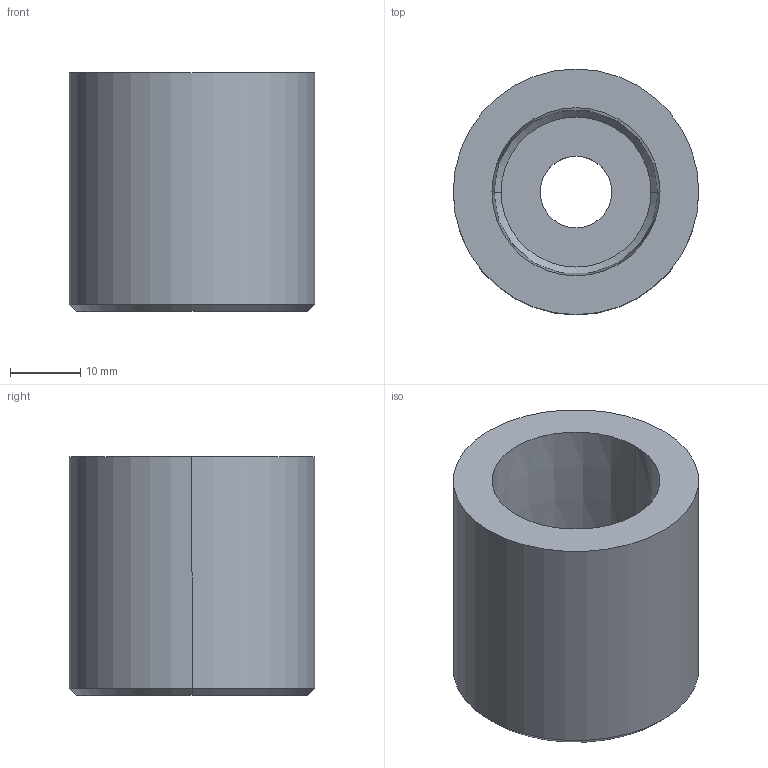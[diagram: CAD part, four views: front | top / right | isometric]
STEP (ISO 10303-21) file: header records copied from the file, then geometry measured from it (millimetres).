
FILE_DESCRIPTION (( 'STEP AP214' ), '1' );
FILE_NAME ('TPNVB35-1.STEP', '2024-05-30T14:10:12', ( '' ), ( '' ), 'SwSTEP 2.0', 'SolidWorks 2017', '' );
FILE_SCHEMA (( 'AUTOMOTIVE_DESIGN' ));
Length unit declared in the file: millimetre
Products named in the file (1): TPNVB35-1
Bounding box: 35 x 35 x 34 mm (x, y, z)
Volume: 22782.6 mm3; surface area: 7300.3 mm2
Topology: 1 solids, 1 shells, 15 faces, 30 edges, 18 vertices
Faces by surface type: cylinder 6, cone 6, plane 3
Entity records: 454 total; most frequent: DIRECTION 80, CARTESIAN_POINT 64, ORIENTED_EDGE 60, AXIS2_PLACEMENT_3D 34, EDGE_CURVE 30, VERTEX_POINT 18, EDGE_LOOP 18, CIRCLE 18
